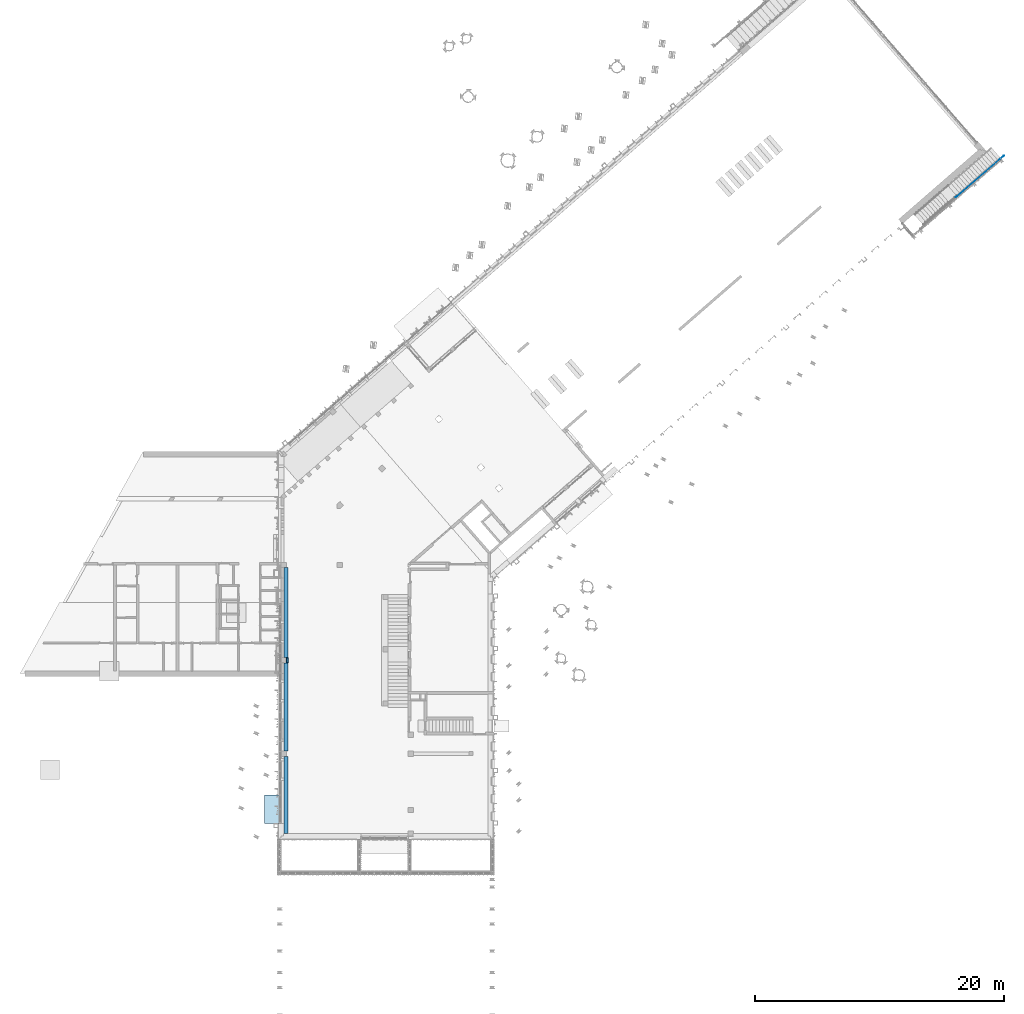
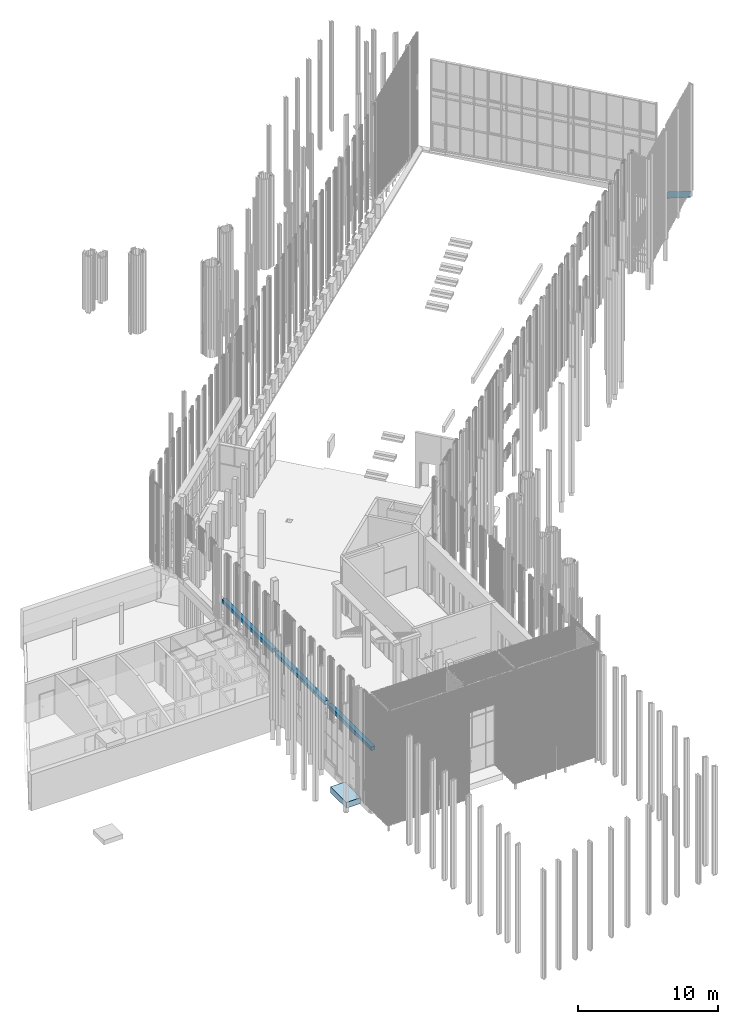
# One storey, part 5 of 390: 5 beams, 1 slab.
"""IFC2X3 building model written with IfcOpenShell, lengths in millimetres."""

from ifc_helpers import new_model, entity, si_unit, converted_unit, derived_unit, money_unit, direction, frame, origin_with_axes, place, context, subcontext, project, spatial, polyline, outline, extrude, faceted_brep, material, layer, layer_set, layer_usage, type_object, element, save


model = new_model("IFC2X3")

# Units and contexts
model_context = context("Model", 3, precision=1e-05, world=origin_with_axes(), true_north=direction((0.0, 1.0)))
body_context = subcontext(model_context, "Body", "Model", "MODEL_VIEW")
ifc_project = project(units=[si_unit("LENGTHUNIT", "METRE", prefix="MILLI"), si_unit("AREAUNIT", "SQUARE_METRE"), si_unit("VOLUMEUNIT", "CUBIC_METRE"), converted_unit("PLANEANGLEUNIT", "DEGREE", entity("IfcPlaneAngleMeasure", 0.0174532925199), si_unit("PLANEANGLEUNIT", "RADIAN"), dimensions=[0, 0, 0, 0, 0, 0, 0]), si_unit("SOLIDANGLEUNIT", "STERADIAN"), money_unit("EUR"), converted_unit("TIMEUNIT", "Year", entity("IfcTimeMeasure", 31556926.0), si_unit("TIMEUNIT", "SECOND"), dimensions=[0, 0, 1, 0, 0, 0, 0]), si_unit("MASSUNIT", "GRAM", prefix="KILO"), si_unit("THERMODYNAMICTEMPERATUREUNIT", "DEGREE_CELSIUS"), si_unit("LUMINOUSINTENSITYUNIT", "LUMEN"), si_unit("ENERGYUNIT", "JOULE", prefix="MEGA"), derived_unit("THERMALCONDUCTANCEUNIT", [(si_unit("POWERUNIT", "WATT"), 1), (si_unit("LENGTHUNIT", "METRE"), -1), (si_unit("THERMODYNAMICTEMPERATUREUNIT", "KELVIN"), -1)]), derived_unit("SPECIFICHEATCAPACITYUNIT", [(si_unit("ENERGYUNIT", "JOULE"), 1), (si_unit("MASSUNIT", "GRAM", prefix="KILO"), -1), (si_unit("THERMODYNAMICTEMPERATUREUNIT", "KELVIN"), -1)]), derived_unit("MASSDENSITYUNIT", [(si_unit("MASSUNIT", "GRAM", prefix="KILO"), 1), (si_unit("VOLUMEUNIT", "CUBIC_METRE"), -1)])], contexts=[model_context])

# Site, building, storey
site_placement = place(None, origin_with_axes())
site = spatial("IfcSite", under=ifc_project, at=site_placement, Name="Site", CompositionType="ELEMENT")
building_placement = place(site_placement, origin_with_axes())
building = spatial("IfcBuilding", under=site, at=building_placement, Name="Building", CompositionType="ELEMENT")
storey_placement = place(building_placement, origin_with_axes())
storey = spatial("IfcBuildingStorey", under=building, at=storey_placement, Name="1 korrus", CompositionType="ELEMENT", Elevation=0.0)

# Beams
ifc_material_1 = material(Name="GENEERILINE - KONSTRUKTRIOON")
beam_type_1 = type_object("IfcBeamType", Name="Tala", PredefinedType="NOTDEFINED")
beam_1_placement = place(storey_placement, frame((123080.0, 45759.9999121, 4744.99999298), z_axis=(0.0, 0.0, 1.0), x_axis=(1.0, 4.39443170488e-10, 0.0)))
element("IfcBeam", 1, at=beam_1_placement, inside=storey, type_object=beam_type_1, material=ifc_material_1, Name="GENEERILINE - KONSTRUKTRIOON", ObjectType="GENEERILINE - KONSTRUKTRIOON 340 x 320", context=body_context, shape_type="Brep", body=[
    faceted_brep([(170.0, 6200.00009453, 0.0), (170.0, 0.0, 0.0), (170.0, 0.0, -320.000338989), (170.0, 6200.00009453, -320.000338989), (-170.0, 6200.00009453, 0.0), (-170.0, 0.0, 0.0), (-170.0, 0.0, -320.000338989), (-170.0, 6200.00009453, -320.000338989)], [[[0, 1, 2, 3]], [[4, 5, 1, 0]], [[1, 5, 6, 2]], [[3, 2, 6, 7]], [[7, 4, 0, 3]], [[7, 6, 5, 4]]]),
])
beam_2_placement = place(storey_placement, frame((123079.999999, 59885.0000123, 4744.99999779), z_axis=(0.0, 0.0, 1.0), x_axis=(1.0, 4.39439864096e-10, 0.0)))
element("IfcBeam", 2, at=beam_2_placement, inside=storey, type_object=beam_type_1, material=ifc_material_1, Name="GENEERILINE - KONSTRUKTRIOON", ObjectType="GENEERILINE - KONSTRUKTRIOON 340 x 320", context=body_context, shape_type="Brep", body=[
    faceted_brep([(170.0, 7204.99999746, -320.000338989), (170.0, 7204.99999746, 0.0), (170.0, 0.0, 0.0), (170.0, 0.0, -320.000338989), (-170.0, 7204.99999746, -320.000338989), (-170.0, 7204.99999746, 0.0), (-170.0, 0.0, 0.0), (-170.0, 0.0, -320.000338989)], [[[0, 1, 2, 3]], [[0, 4, 5, 1]], [[1, 5, 6, 2]], [[3, 2, 6, 7]], [[4, 0, 3, 7]], [[5, 4, 7, 6]]]),
])
beam_3_placement = place(storey_placement, frame((123179.999997, 59465.0000122, 4744.99999538), z_axis=(0.0, 0.0, 1.0), x_axis=(1.0, 4.39453764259e-10, 0.0)))
element("IfcBeam", 3, at=beam_3_placement, inside=storey, type_object=beam_type_1, material=ifc_material_1, Name="GENEERILINE - KONSTRUKTRIOON", ObjectType="GENEERILINE - KONSTRUKTRIOON 140 x 320", context=body_context, shape_type="Brep", body=[
    faceted_brep([(70.0, 0.0, 0.0), (70.0, 0.0, -320.000338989), (70.0, 420.000000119, -320.000338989), (70.0, 420.000000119, 0.0), (-70.0, 0.0, 0.0), (-70.0, 0.0, -320.000338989), (-70.0, 420.000000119, -320.000338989), (-70.0, 420.000000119, 0.0)], [[[0, 1, 2, 3]], [[4, 5, 1, 0]], [[1, 5, 6, 2]], [[7, 3, 2, 6]], [[4, 0, 3, 7]], [[5, 4, 7, 6]]]),
])
beam_4_placement = place(storey_placement, frame((123080.0, 52380.0000066, 4744.99999538), z_axis=(0.0, 0.0, 1.0), x_axis=(1.0, 4.39439341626e-10, 0.0)))
element("IfcBeam", 4, at=beam_4_placement, inside=storey, type_object=beam_type_1, material=ifc_material_1, Name="GENEERILINE - KONSTRUKTRIOON", ObjectType="GENEERILINE - KONSTRUKTRIOON 340 x 320", context=body_context, shape_type="Brep", body=[
    faceted_brep([(170.0, 7085.00000552, 0.0), (170.0, 0.0, 0.0), (170.0, 0.0, -320.000338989), (170.0, 7085.00000552, -320.000338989), (-170.0, 7085.00000552, 0.0), (-170.0, 0.0, 0.0), (-170.0, 0.0, -320.000338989), (-170.0, 7085.00000552, -320.000338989)], [[[0, 1, 2, 3]], [[4, 5, 1, 0]], [[1, 5, 6, 2]], [[3, 2, 6, 7]], [[7, 4, 0, 3]], [[7, 6, 5, 4]]]),
])
ifc_material_2 = material(Name="Teras (musta värvi)")
beam_type_2 = type_object("IfcBeamType", Name="T-11", PredefinedType="NOTDEFINED")
beam_5_placement = place(storey_placement, frame((180706.601525, 100142.347904, 99.0741889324), z_axis=(0.0, 0.0, 1.0), x_axis=(-0.656058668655, 0.754709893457, 0.0)))
element("IfcBeam", 5, at=beam_5_placement, inside=storey, type_object=beam_type_2, material=ifc_material_2, Name="Teras (musta värvi)", ObjectType="Teras (musta värvi) 5 x 480", context=body_context, shape_type="Brep", body=[
    faceted_brep([(20.0, 4961.71451358, 3215.92602729), (20.0, 0.0, 0.0), (20.0, 0.0, -572.005350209), (20.0, 5103.66562738, 2735.92602729), (15.0, 4961.71451358, 3215.92602729), (15.0, 0.0, 0.0), (15.0, 0.0, -572.005350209), (15.0, 5103.66562738, 2735.92602729)], [[[0, 1, 2, 3]], [[4, 5, 1, 0]], [[1, 5, 6, 2]], [[3, 2, 6, 7]], [[7, 4, 0, 3]], [[7, 6, 5, 4]]]),
])

# Slab
ifc_material_3 = material(Name="Teras - Roostevaba")
ifc_layer_1 = layer(ifc_material_3, 30.0, ventilated="UNKNOWN")
ifc_material_4 = material(Name="Õhkvahe")
ifc_layer_2 = layer(ifc_material_4, 8.0, ventilated="UNKNOWN")
ifc_material_5 = material(Name="Betoon")
ifc_layer_3 = layer(ifc_material_5, 120.0, ventilated="UNKNOWN")
ifc_material_6 = material(Name="Membraan - Veekindel")
ifc_layer_4 = layer(ifc_material_6, 1.0, ventilated="UNKNOWN")
ifc_material_7 = material(Name="Soojustus - Plastik Kõva")
ifc_layer_5 = layer(ifc_material_7, 100.0, ventilated="UNKNOWN")
ifc_layer_6 = layer(ifc_material_6, 1.0, ventilated="UNKNOWN")
ifc_material_8 = material(Name="Liiv")
ifc_layer_7 = layer(ifc_material_8, 50.0, ventilated="UNKNOWN")
ifc_layer_8 = layer(ifc_material_6, 1.0, ventilated="UNKNOWN")
ifc_material_9 = material(Name="Killustik")
ifc_layer_9 = layer(ifc_material_9, 200.0, ventilated="UNKNOWN")
ifc_layer_set = layer_set([ifc_layer_1, ifc_layer_2, ifc_layer_3, ifc_layer_4, ifc_layer_5, ifc_layer_6, ifc_layer_7, ifc_layer_8, ifc_layer_9], Name="PP-03")
ifc_layer_usage = layer_usage(ifc_layer_set, "AXIS3", "NEGATIVE", 511.0)
slab_type = type_object("IfcSlabType", Name="PP-03", PredefinedType="FLOOR")
slab_placement = place(storey_placement, frame((122549.999996, 46630.0000727, -531.017742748), z_axis=(0.0, 0.0, 1.0), x_axis=(-4.7925437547e-08, 1.0, 0.0)))
element("IfcSlab", 6, at=slab_placement, inside=storey, type_object=slab_type, material=ifc_layer_usage, Name="PP-03", PredefinedType="FLOOR", context=body_context, shape_type="SweptSolid", body=[
    extrude(outline(polyline([(2207.99992532, -0.000105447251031), (2208.00144114, 1200.0415605), (-49.9998922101, 1200.04301041), (-49.9999495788, 4.97667201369e-07), (2207.99992532, -0.000105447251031)])), frame((0.0, 0.0, 0.0), z_axis=(0.0, 0.00833304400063, 0.999965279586), x_axis=(1.0, 0.0, 0.0)), (0.0, -0.00833304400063, 0.999965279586), 511.017742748),
])

save(model, "model.ifc")
